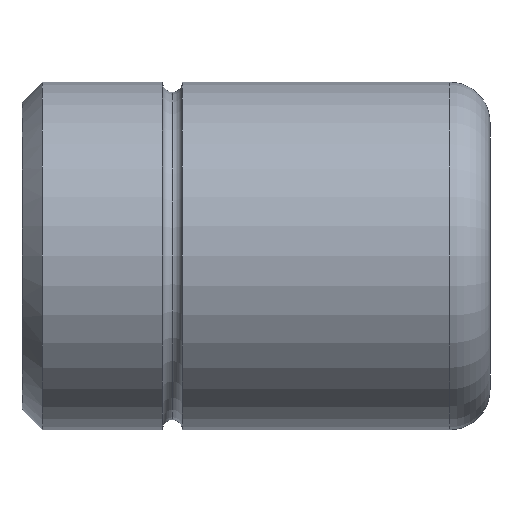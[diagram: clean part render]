
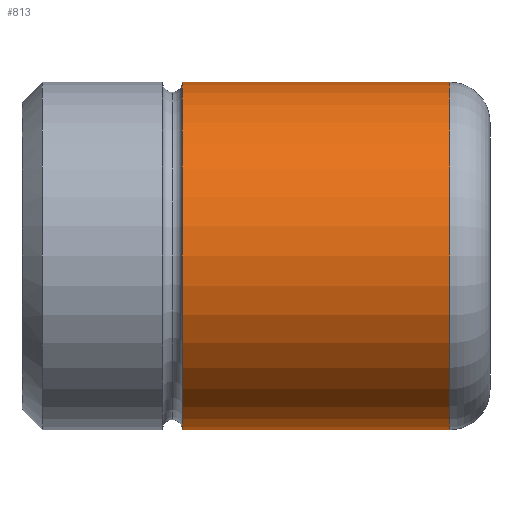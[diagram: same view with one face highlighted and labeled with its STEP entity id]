
A CAD part, front view. The second image highlights one B-rep face of the part: STEP entity #813.
In plain terms, the highlighted cylindrical face has radius 13 mm (diameter 26 mm), a partial arc.
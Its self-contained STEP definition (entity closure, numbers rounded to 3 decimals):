
#629=CARTESIAN_POINT('Vertex',(12.,0.,13.)) ;
#636=CARTESIAN_POINT('Vertex',(12.,0.,-13.)) ;
#662=CARTESIAN_POINT('Axis2P3D Location',(12.,0.,0.)) ;
#666=CARTESIAN_POINT('Vertex',(12.,-13.,0.)) ;
#669=CARTESIAN_POINT('Axis2P3D Location',(12.,0.,0.)) ;
#753=CARTESIAN_POINT('Line Origine',(35.,0.,13.)) ;
#757=CARTESIAN_POINT('Vertex',(32.,0.,13.)) ;
#771=CARTESIAN_POINT('Vertex',(32.,0.,-13.)) ;
#774=CARTESIAN_POINT('Line Origine',(35.,0.,-13.)) ;
#788=CARTESIAN_POINT('Axis2P3D Location',(35.,0.,0.)) ;
#793=CARTESIAN_POINT('Axis2P3D Location',(32.,0.,0.)) ;
#797=CARTESIAN_POINT('Vertex',(32.,-13.,0.)) ;
#800=CARTESIAN_POINT('Axis2P3D Location',(32.,0.,0.)) ;
#663=DIRECTION('Axis2P3D Direction',(1.,0.,0.)) ;
#670=DIRECTION('Axis2P3D Direction',(1.,0.,0.)) ;
#754=DIRECTION('Vector Direction',(-1.,0.,0.)) ;
#775=DIRECTION('Vector Direction',(-1.,0.,0.)) ;
#789=DIRECTION('Axis2P3D Direction',(-1.,-0.,-0.)) ;
#790=DIRECTION('Axis2P3D XDirection',(0.,0.,-1.)) ;
#794=DIRECTION('Axis2P3D Direction',(-1.,-0.,-0.)) ;
#801=DIRECTION('Axis2P3D Direction',(-1.,-0.,-0.)) ;
#664=AXIS2_PLACEMENT_3D('Circle Axis2P3D',#662,#663,$) ;
#671=AXIS2_PLACEMENT_3D('Circle Axis2P3D',#669,#670,$) ;
#791=AXIS2_PLACEMENT_3D('Cylinder Axis2P3D',#788,#789,#790) ;
#795=AXIS2_PLACEMENT_3D('Circle Axis2P3D',#793,#794,$) ;
#802=AXIS2_PLACEMENT_3D('Circle Axis2P3D',#800,#801,$) ;
#806=ORIENTED_EDGE('',*,*,#778,.T.) ;
#807=ORIENTED_EDGE('',*,*,#799,.F.) ;
#808=ORIENTED_EDGE('',*,*,#804,.F.) ;
#809=ORIENTED_EDGE('',*,*,#759,.T.) ;
#810=ORIENTED_EDGE('',*,*,#673,.T.) ;
#811=ORIENTED_EDGE('',*,*,#668,.T.) ;
#755=VECTOR('Line Direction',#754,1.) ;
#776=VECTOR('Line Direction',#775,1.) ;
#813=ADVANCED_FACE('347-15 x 35',(#812),#792,.T.) ;
#665=CIRCLE('generated circle',#664,13.) ;
#672=CIRCLE('generated circle',#671,13.) ;
#796=CIRCLE('generated circle',#795,13.) ;
#803=CIRCLE('generated circle',#802,13.) ;
#792=CYLINDRICAL_SURFACE('generated cylinder',#791,13.) ;
#668=EDGE_CURVE('',#667,#637,#665,.T.) ;
#673=EDGE_CURVE('',#630,#667,#672,.T.) ;
#759=EDGE_CURVE('',#758,#630,#756,.T.) ;
#778=EDGE_CURVE('',#637,#772,#777,.F.) ;
#799=EDGE_CURVE('',#798,#772,#796,.F.) ;
#804=EDGE_CURVE('',#758,#798,#803,.F.) ;
#805=EDGE_LOOP('',(#806,#807,#808,#809,#810,#811)) ;
#812=FACE_OUTER_BOUND('',#805,.T.) ;
#756=LINE('Line',#753,#755) ;
#777=LINE('Line',#774,#776) ;
#630=VERTEX_POINT('',#629) ;
#637=VERTEX_POINT('',#636) ;
#667=VERTEX_POINT('',#666) ;
#758=VERTEX_POINT('',#757) ;
#772=VERTEX_POINT('',#771) ;
#798=VERTEX_POINT('',#797) ;
